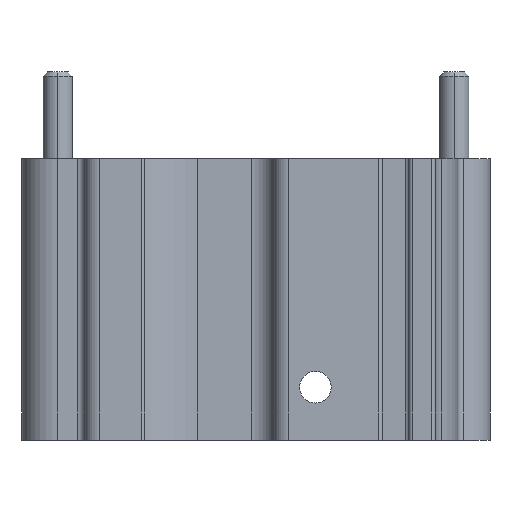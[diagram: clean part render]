
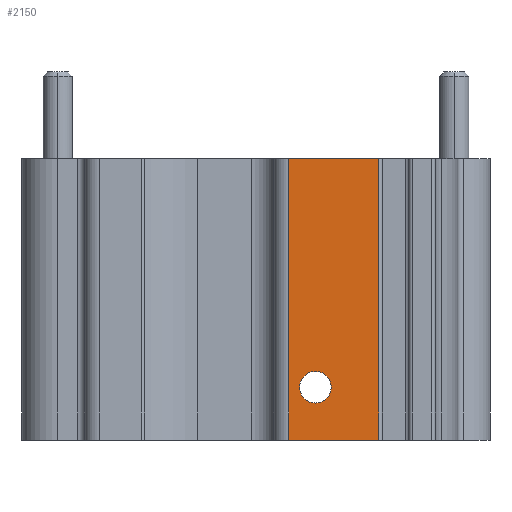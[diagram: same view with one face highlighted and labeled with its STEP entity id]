
A CAD part, front view. The second image highlights one B-rep face of the part: STEP entity #2150.
In plain terms, the highlighted planar face has unit normal (0, -1, 0).
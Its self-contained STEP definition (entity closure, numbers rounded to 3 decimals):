
#256 = CARTESIAN_POINT ( 'NONE',  ( 6.5, -17., -37.3 ) ) ;
#306 = AXIS2_PLACEMENT_3D ( 'NONE', #5209, #5198, #5195 ) ;
#373 = DIRECTION ( 'NONE',  ( 0., 0., -1. ) ) ;
#966 = CARTESIAN_POINT ( 'NONE',  ( 6.5, -17., -170.6 ) ) ;
#1563 = EDGE_LOOP ( 'NONE', ( #4635, #4681 ) ) ;
#2011 = CARTESIAN_POINT ( 'NONE',  ( 10., -17., -28.2 ) ) ;
#2055 = VERTEX_POINT ( 'NONE', #7801 ) ;
#2150 = ADVANCED_FACE ( 'NONE', ( #2614, #2960 ), #5319, .F. ) ;
#2172 = CARTESIAN_POINT ( 'NONE',  ( 6.5, -17., 0. ) ) ;
#2614 = FACE_BOUND ( 'NONE', #1563, .T. ) ;
#2642 = VERTEX_POINT ( 'NONE', #4748 ) ;
#2960 = FACE_OUTER_BOUND ( 'NONE', #5971, .T. ) ;
#2963 = VERTEX_POINT ( 'NONE', #2172 ) ;
#3546 = DIRECTION ( 'NONE',  ( 0., 0., 1. ) ) ;
#3985 = VERTEX_POINT ( 'NONE', #2011 ) ;
#4635 = ORIENTED_EDGE ( 'NONE', *, *, #6325, .T. ) ;
#4681 = ORIENTED_EDGE ( 'NONE', *, *, #5710, .T. ) ;
#4707 = ORIENTED_EDGE ( 'NONE', *, *, #6211, .T. ) ;
#4716 = ORIENTED_EDGE ( 'NONE', *, *, #6507, .T. ) ;
#4725 = ORIENTED_EDGE ( 'NONE', *, *, #6548, .T. ) ;
#4746 = ORIENTED_EDGE ( 'NONE', *, *, #6623, .T. ) ;
#4748 = CARTESIAN_POINT ( 'NONE',  ( 18.4, -17., -37.3 ) ) ;
#5195 = DIRECTION ( 'NONE',  ( 0., 0., 1. ) ) ;
#5198 = DIRECTION ( 'NONE',  ( 0., 1., 0. ) ) ;
#5209 = CARTESIAN_POINT ( 'NONE',  ( -5.1, -17., -170.6 ) ) ;
#5319 = PLANE ( 'NONE',  #306 ) ;
#5710 = EDGE_CURVE ( 'NONE', #6717, #3985, #9469, .T. ) ;
#5971 = EDGE_LOOP ( 'NONE', ( #4707, #4716, #4725, #4746 ) ) ;
#6211 = EDGE_CURVE ( 'NONE', #2963, #9340, #8276, .T. ) ;
#6325 = EDGE_CURVE ( 'NONE', #3985, #6717, #8228, .T. ) ;
#6507 = EDGE_CURVE ( 'NONE', #9340, #2642, #8285, .T. ) ;
#6548 = EDGE_CURVE ( 'NONE', #2642, #2055, #8164, .T. ) ;
#6623 = EDGE_CURVE ( 'NONE', #2055, #2963, #8213, .T. ) ;
#6717 = VERTEX_POINT ( 'NONE', #8706 ) ;
#7473 = AXIS2_PLACEMENT_3D ( 'NONE', #9289, #9286, #9275 ) ;
#7689 = CARTESIAN_POINT ( 'NONE',  ( 10., -17., -30.3 ) ) ;
#7699 = DIRECTION ( 'NONE',  ( 0., 1., 0. ) ) ;
#7741 = AXIS2_PLACEMENT_3D ( 'NONE', #7689, #7699, #3546 ) ;
#7801 = CARTESIAN_POINT ( 'NONE',  ( 18.4, -17., 0. ) ) ;
#8107 = VECTOR ( 'NONE', #8850, 1000. ) ;
#8118 = VECTOR ( 'NONE', #9039, 1000. ) ;
#8153 = VECTOR ( 'NONE', #9107, 1000. ) ;
#8164 = LINE ( 'NONE', #9128, #8118 ) ;
#8213 = LINE ( 'NONE', #9027, #8107 ) ;
#8228 = CIRCLE ( 'NONE', #7473, 2.1 ) ;
#8244 = VECTOR ( 'NONE', #373, 1000. ) ;
#8276 = LINE ( 'NONE', #966, #8244 ) ;
#8285 = LINE ( 'NONE', #9130, #8153 ) ;
#8706 = CARTESIAN_POINT ( 'NONE',  ( 10., -17., -32.4 ) ) ;
#8850 = DIRECTION ( 'NONE',  ( -1., 0., 0. ) ) ;
#9027 = CARTESIAN_POINT ( 'NONE',  ( -5.1, -17., 0. ) ) ;
#9039 = DIRECTION ( 'NONE',  ( 0., 0., 1. ) ) ;
#9107 = DIRECTION ( 'NONE',  ( 1., 0., 0. ) ) ;
#9128 = CARTESIAN_POINT ( 'NONE',  ( 18.4, -17., -170.6 ) ) ;
#9130 = CARTESIAN_POINT ( 'NONE',  ( -5.1, -17., -37.3 ) ) ;
#9275 = DIRECTION ( 'NONE',  ( 0., 0., 1. ) ) ;
#9286 = DIRECTION ( 'NONE',  ( 0., 1., 0. ) ) ;
#9289 = CARTESIAN_POINT ( 'NONE',  ( 10., -17., -30.3 ) ) ;
#9340 = VERTEX_POINT ( 'NONE', #256 ) ;
#9469 = CIRCLE ( 'NONE', #7741, 2.1 ) ;
